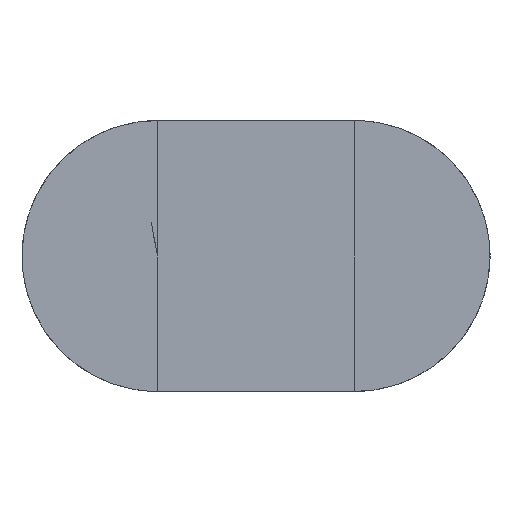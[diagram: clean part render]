
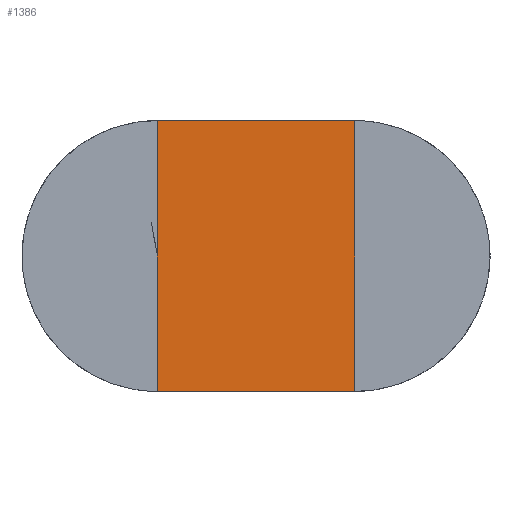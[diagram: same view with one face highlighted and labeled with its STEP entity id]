
A CAD part, top view. The second image highlights one B-rep face of the part: STEP entity #1386.
In plain terms, the highlighted free-form (B-spline) face has degree [1, 1] with [2, 2] control points.
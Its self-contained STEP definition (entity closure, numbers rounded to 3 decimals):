
#1386=ADVANCED_FACE('',(#2307),#34106,.T.);
#2307=FACE_OUTER_BOUND('',#3228,.T.);
#3228=EDGE_LOOP('',(#4219,#4220,#4221,#4222));
#4219=ORIENTED_EDGE('',*,*,#22779,.T.);
#4220=ORIENTED_EDGE('',*,*,#22780,.T.);
#4221=ORIENTED_EDGE('',*,*,#22781,.T.);
#4222=ORIENTED_EDGE('',*,*,#22777,.F.);
#9522=PCURVE('',#34105,#14828);
#9525=PCURVE('',#34106,#14831);
#9526=PCURVE('',#34106,#14832);
#9527=PCURVE('',#34106,#14833);
#9528=PCURVE('',#34106,#14834);
#9532=PCURVE('',#34107,#14838);
#9564=PCURVE('',#34114,#14870);
#9569=PCURVE('',#34115,#14875);
#14828=DEFINITIONAL_REPRESENTATION('',(#25506),#62928);
#14831=DEFINITIONAL_REPRESENTATION('',(#25511),#62928);
#14832=DEFINITIONAL_REPRESENTATION('',(#25513),#62928);
#14833=DEFINITIONAL_REPRESENTATION('',(#25515),#62928);
#14834=DEFINITIONAL_REPRESENTATION('',(#25516),#62928);
#14838=DEFINITIONAL_REPRESENTATION('',(#25523),#62928);
#14870=DEFINITIONAL_REPRESENTATION('',(#25572),#62928);
#14875=DEFINITIONAL_REPRESENTATION('',(#25577),#62928);
#20112=SURFACE_CURVE('',#25505,(#9522,#9528),.PCURVE_S1.);
#20114=SURFACE_CURVE('',#25510,(#9525,#9564),.PCURVE_S1.);
#20115=SURFACE_CURVE('',#25512,(#9526,#9532),.PCURVE_S1.);
#20116=SURFACE_CURVE('',#25514,(#9527,#9569),.PCURVE_S1.);
#22777=EDGE_CURVE('',#32356,#32357,#20112,.T.);
#22779=EDGE_CURVE('',#32356,#32358,#20114,.T.);
#22780=EDGE_CURVE('',#32358,#32359,#20115,.T.);
#22781=EDGE_CURVE('',#32359,#32357,#20116,.T.);
#25505=B_SPLINE_CURVE_WITH_KNOTS('',1,(#35406,#35407),.UNSPECIFIED.,.F.,
 .F.,(2,2),(0.,400.),.UNSPECIFIED.);
#25506=B_SPLINE_CURVE_WITH_KNOTS('',1,(#35408,#35409),.UNSPECIFIED.,.F.,
 .F.,(2,2),(0.,400.),.UNSPECIFIED.);
#25510=B_SPLINE_CURVE_WITH_KNOTS('',1,(#35416,#35417),.UNSPECIFIED.,.F.,
 .F.,(2,2),(-925.111,-455.131),.UNSPECIFIED.);
#25511=B_SPLINE_CURVE_WITH_KNOTS('',1,(#35418,#35419),.UNSPECIFIED.,.F.,
 .F.,(2,2),(-925.111,-455.131),.UNSPECIFIED.);
#25512=B_SPLINE_CURVE_WITH_KNOTS('',1,(#35420,#35421),.UNSPECIFIED.,.F.,
 .F.,(2,2),(0.,400.),.UNSPECIFIED.);
#25513=B_SPLINE_CURVE_WITH_KNOTS('',1,(#35422,#35423),.UNSPECIFIED.,.F.,
 .F.,(2,2),(0.,400.),.UNSPECIFIED.);
#25514=B_SPLINE_CURVE_WITH_KNOTS('',1,(#35424,#35425),.UNSPECIFIED.,.F.,
 .F.,(2,2),(455.131,925.111),.UNSPECIFIED.);
#25515=B_SPLINE_CURVE_WITH_KNOTS('',1,(#35426,#35427),.UNSPECIFIED.,.F.,
 .F.,(2,2),(455.131,925.111),.UNSPECIFIED.);
#25516=B_SPLINE_CURVE_WITH_KNOTS('',1,(#35428,#35429),.UNSPECIFIED.,.F.,
 .F.,(2,2),(0.,400.),.UNSPECIFIED.);
#25523=B_SPLINE_CURVE_WITH_KNOTS('',1,(#35442,#35443),.UNSPECIFIED.,.F.,
 .F.,(2,2),(0.,400.),.UNSPECIFIED.);
#25572=B_SPLINE_CURVE_WITH_KNOTS('',1,(#35540,#35541),.UNSPECIFIED.,.F.,
 .F.,(2,2),(-925.111,-455.131),.UNSPECIFIED.);
#25577=B_SPLINE_CURVE_WITH_KNOTS('',1,(#35550,#35551),.UNSPECIFIED.,.F.,
 .F.,(2,2),(455.131,925.111),.UNSPECIFIED.);
#32356=VERTEX_POINT('',#35370);
#32357=VERTEX_POINT('',#35371);
#32358=VERTEX_POINT('',#35372);
#32359=VERTEX_POINT('',#35373);
#34105=B_SPLINE_SURFACE_WITH_KNOTS('',1,1,((#35322,#35323),(#35324,#35325)),
 .UNSPECIFIED.,.F.,.F.,.F.,(2,2),(2,2),(-931.111,-925.111),
(0.,400.),.UNSPECIFIED.);
#34106=B_SPLINE_SURFACE_WITH_KNOTS('',1,1,((#35326,#35327),(#35328,#35329)),
 .UNSPECIFIED.,.F.,.F.,.F.,(2,2),(2,2),(-925.111,-455.131),
(0.,400.),.UNSPECIFIED.);
#34107=B_SPLINE_SURFACE_WITH_KNOTS('',1,1,((#35330,#35331),(#35332,#35333)),
 .UNSPECIFIED.,.F.,.F.,.F.,(2,2),(2,2),(-455.131,-449.131),
(0.,400.),.UNSPECIFIED.);
#34114=B_SPLINE_SURFACE_WITH_KNOTS('',1,1,((#35358,#35359),(#35360,#35361)),
 .UNSPECIFIED.,.F.,.F.,.F.,(2,2),(2,2),(-22.125,9.125),
(-118.738,568.738),.UNSPECIFIED.);
#34115=B_SPLINE_SURFACE_WITH_KNOTS('',1,1,((#35362,#35363),(#35364,#35365)),
 .UNSPECIFIED.,.F.,.F.,.F.,(2,2),(2,2),(-118.738,568.738),
(-22.125,9.125),.UNSPECIFIED.);
#35322=CARTESIAN_POINT('',(-13246.215,-5231.348,411.205));
#35323=CARTESIAN_POINT('',(-13646.215,-5231.348,411.205));
#35324=CARTESIAN_POINT('',(-13246.215,-5231.348,417.205));
#35325=CARTESIAN_POINT('',(-13646.215,-5231.348,417.205));
#35326=CARTESIAN_POINT('',(-13246.215,-5231.348,417.205));
#35327=CARTESIAN_POINT('',(-13646.215,-5231.348,417.205));
#35328=CARTESIAN_POINT('',(-13246.215,-4681.367,417.205));
#35329=CARTESIAN_POINT('',(-13646.215,-4681.367,417.205));
#35330=CARTESIAN_POINT('',(-13246.215,-4681.367,417.205));
#35331=CARTESIAN_POINT('',(-13646.215,-4681.367,417.205));
#35332=CARTESIAN_POINT('',(-13246.215,-4681.367,411.205));
#35333=CARTESIAN_POINT('',(-13646.215,-4681.367,411.205));
#35358=CARTESIAN_POINT('',(-13246.215,-5300.096,420.33));
#35359=CARTESIAN_POINT('',(-13246.215,-4612.62,420.33));
#35360=CARTESIAN_POINT('',(-13246.215,-5300.096,389.08));
#35361=CARTESIAN_POINT('',(-13246.215,-4612.62,389.08));
#35362=CARTESIAN_POINT('',(-13646.215,-5300.096,420.33));
#35363=CARTESIAN_POINT('',(-13646.215,-5300.096,389.08));
#35364=CARTESIAN_POINT('',(-13646.215,-4612.62,420.33));
#35365=CARTESIAN_POINT('',(-13646.215,-4612.62,389.08));
#35370=CARTESIAN_POINT('',(-13246.215,-5231.348,417.205));
#35371=CARTESIAN_POINT('',(-13646.215,-5231.348,417.205));
#35372=CARTESIAN_POINT('',(-13246.215,-4681.367,417.205));
#35373=CARTESIAN_POINT('',(-13646.215,-4681.367,417.205));
#35406=CARTESIAN_POINT('',(-13246.215,-5231.348,417.205));
#35407=CARTESIAN_POINT('',(-13646.215,-5231.348,417.205));
#35408=CARTESIAN_POINT('',(-925.111,0.));
#35409=CARTESIAN_POINT('',(-925.111,400.));
#35416=CARTESIAN_POINT('',(-13246.215,-5231.348,417.205));
#35417=CARTESIAN_POINT('',(-13246.215,-4681.367,417.205));
#35418=CARTESIAN_POINT('',(-925.111,0.));
#35419=CARTESIAN_POINT('',(-455.131,0.));
#35420=CARTESIAN_POINT('',(-13246.215,-4681.367,417.205));
#35421=CARTESIAN_POINT('',(-13646.215,-4681.367,417.205));
#35422=CARTESIAN_POINT('',(-455.131,0.));
#35423=CARTESIAN_POINT('',(-455.131,400.));
#35424=CARTESIAN_POINT('',(-13646.215,-4681.367,417.205));
#35425=CARTESIAN_POINT('',(-13646.215,-5231.348,417.205));
#35426=CARTESIAN_POINT('',(-455.131,400.));
#35427=CARTESIAN_POINT('',(-925.111,400.));
#35428=CARTESIAN_POINT('',(-925.111,0.));
#35429=CARTESIAN_POINT('',(-925.111,400.));
#35442=CARTESIAN_POINT('',(-455.131,0.));
#35443=CARTESIAN_POINT('',(-455.131,400.));
#35540=CARTESIAN_POINT('',(-19.,-49.99));
#35541=CARTESIAN_POINT('',(-19.,499.99));
#35550=CARTESIAN_POINT('',(499.99,-19.));
#35551=CARTESIAN_POINT('',(-49.99,-19.));
#62928=(
GEOMETRIC_REPRESENTATION_CONTEXT(2)
PARAMETRIC_REPRESENTATION_CONTEXT()
REPRESENTATION_CONTEXT('pspace','')
);
